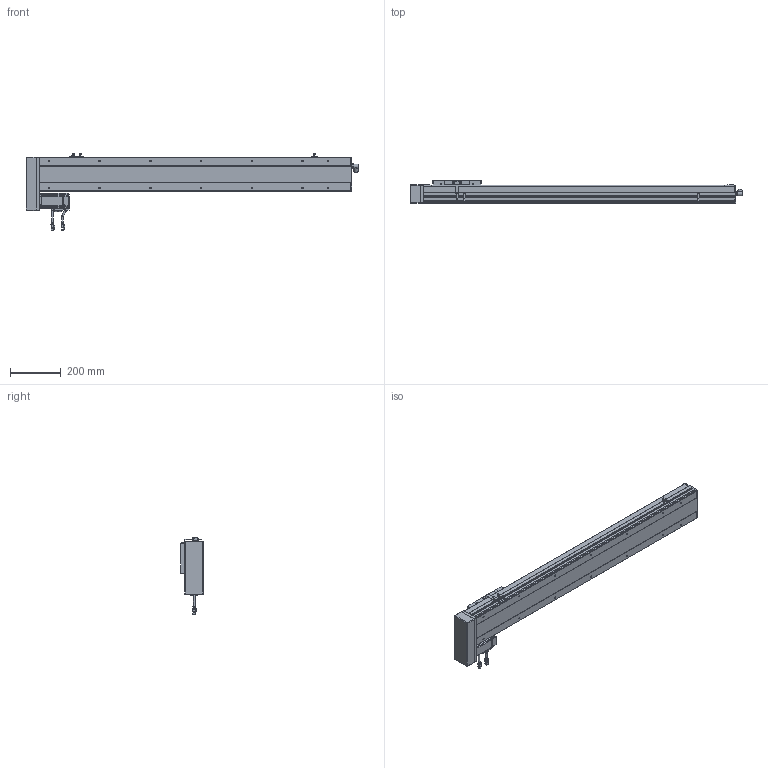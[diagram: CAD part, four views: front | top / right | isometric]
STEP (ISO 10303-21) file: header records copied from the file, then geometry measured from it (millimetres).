
FILE_DESCRIPTION(/* description */ ('STEP AP214'),/* implementation_level */ '2;1');
FILE_NAME(/* name */ 'PSC140-L05-S950-BR-P40-C1-N(0)',/* time_stamp */ '2022-06-13T03:35:44+02:00',/* author */ ('License CC BY-ND 4.0'),/* organization */ ('CADENAS'),/* preprocessor_version */ 'ST-DEVELOPER v18.102',/* originating_system */ 'PARTsolutions',/* authorisation */ ' ');
FILE_SCHEMA (('AUTOMOTIVE_DESIGN {1 0 10303 214 3 1 1}'));
Length unit declared in the file: millimetre
Products named in the file (11): PSC140-L05-S950-BR-P40-C1-N(0); P40-s2; P40-c2; P40-s1; P40-c1; P40-p1; PSC140-BR-body2; PSC140-sensor; PSC140-BR-SLIDER; PSC140-S950-BR-P40-C1_BODY1; PSC140-L05-S950-BR-P40-C1-N(0)_dummy
Assembly tree (12 placements, depth 2):
  PSC140-L05-S950-BR-P40-C1-N(0)
    P40-s2
    P40-c2
    P40-s1
    P40-c1
    P40-p1
    PSC140-BR-body2
    PSC140-sensor  x3
    PSC140-BR-SLIDER
    PSC140-S950-BR-P40-C1_BODY1
    PSC140-L05-S950-BR-P40-C1-N(0)_dummy
Bounding box: 1308 x 91 x 300.88 mm (x, y, z)
Volume: 13232638 mm3; surface area: 762684 mm2
Topology: 11 solids, 11 shells, 1237 faces, 3189 edges, 2109 vertices
Faces by surface type: plane 860, cylinder 316, cone 42, torus 19
Full cylindrical faces by diameter (mm): 1 x8, 2.6 x10, 2.8 x3, 3.3 x8, 4.5 x12, 4.6 x3, 4.917 x18, 5 x4, 5.5 x8, 6 x10, 7 x10, 9 x2, 10 x1, 11 x1, 12 x1, 13.74 x1, 14 x1, 16.4 x2, 16.5 x1, 36 x1, 50 x2
Entity records: 34206 total; most frequent: CARTESIAN_POINT 5971, DIRECTION 5755, ORIENTED_EDGE 5546, EDGE_CURVE 2773, LINE 2097, VECTOR 2097, VERTEX_POINT 1930, AXIS2_PLACEMENT_3D 1829
